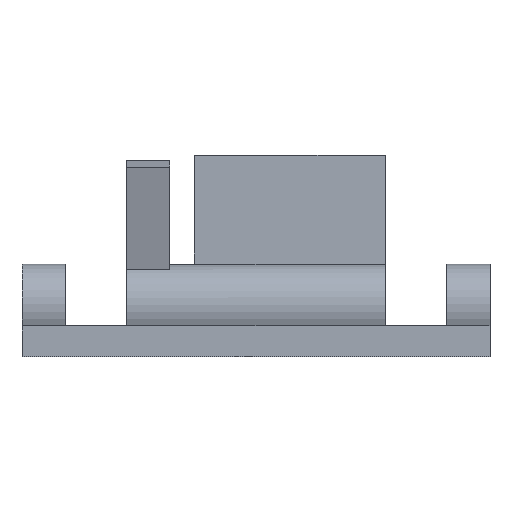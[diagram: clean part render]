
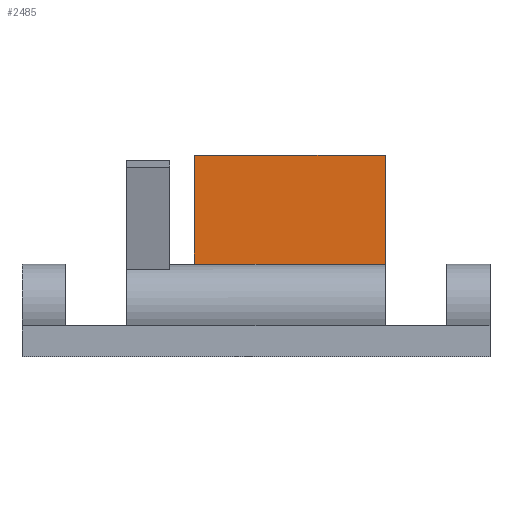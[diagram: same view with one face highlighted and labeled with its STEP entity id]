
A CAD part, front view. The second image highlights one B-rep face of the part: STEP entity #2485.
In plain terms, the highlighted planar face has unit normal (0, -1, 0).
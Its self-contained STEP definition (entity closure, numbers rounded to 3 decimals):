
#356 = PLANE('',#357);
#357 = AXIS2_PLACEMENT_3D('',#358,#359,#360);
#358 = CARTESIAN_POINT('',(21.,50.,259.));
#359 = DIRECTION('',(1.,0.,0.));
#360 = DIRECTION('',(-0.,0.,1.));
#384 = CYLINDRICAL_SURFACE('',#385,7.);
#385 = AXIS2_PLACEMENT_3D('',#386,#387,#388);
#386 = CARTESIAN_POINT('',(-21.,50.,259.));
#387 = DIRECTION('',(-1.,-0.,-0.));
#388 = DIRECTION('',(0.,-1.,0.));
#1368 = VERTEX_POINT('',#1369);
#1369 = CARTESIAN_POINT('',(21.,56.,262.606));
#1506 = VERTEX_POINT('',#1507);
#1507 = CARTESIAN_POINT('',(21.,56.,283.7));
#1521 = PLANE('',#1522);
#1522 = AXIS2_PLACEMENT_3D('',#1523,#1524,#1525);
#1523 = CARTESIAN_POINT('',(-10.,56.,283.7));
#1524 = DIRECTION('',(0.,0.,1.));
#1525 = DIRECTION('',(1.,0.,0.));
#1533 = EDGE_CURVE('',#1368,#1506,#1534,.T.);
#1534 = SURFACE_CURVE('',#1535,(#1539,#1546),.PCURVE_S1.);
#1535 = LINE('',#1536,#1537);
#1536 = CARTESIAN_POINT('',(21.,56.,257.));
#1537 = VECTOR('',#1538,1.);
#1538 = DIRECTION('',(0.,0.,1.));
#1539 = PCURVE('',#356,#1540);
#1540 = DEFINITIONAL_REPRESENTATION('',(#1541),#1545);
#1541 = LINE('',#1542,#1543);
#1542 = CARTESIAN_POINT('',(-2.,-6.));
#1543 = VECTOR('',#1544,1.);
#1544 = DIRECTION('',(1.,0.));
#1545 = ( GEOMETRIC_REPRESENTATION_CONTEXT(2) 
PARAMETRIC_REPRESENTATION_CONTEXT() REPRESENTATION_CONTEXT('2D SPACE',''
  ) );
#1546 = PCURVE('',#1547,#1552);
#1547 = PLANE('',#1548);
#1548 = AXIS2_PLACEMENT_3D('',#1549,#1550,#1551);
#1549 = CARTESIAN_POINT('',(-10.,56.,257.));
#1550 = DIRECTION('',(0.,1.,0.));
#1551 = DIRECTION('',(0.,0.,1.));
#1552 = DEFINITIONAL_REPRESENTATION('',(#1553),#1557);
#1553 = LINE('',#1554,#1555);
#1554 = CARTESIAN_POINT('',(0.,31.));
#1555 = VECTOR('',#1556,1.);
#1556 = DIRECTION('',(1.,0.));
#1557 = ( GEOMETRIC_REPRESENTATION_CONTEXT(2) 
PARAMETRIC_REPRESENTATION_CONTEXT() REPRESENTATION_CONTEXT('2D SPACE',''
  ) );
#1722 = VERTEX_POINT('',#1723);
#1723 = CARTESIAN_POINT('',(-10.,56.,262.606));
#1738 = PLANE('',#1739);
#1739 = AXIS2_PLACEMENT_3D('',#1740,#1741,#1742);
#1740 = CARTESIAN_POINT('',(-10.,56.,257.));
#1741 = DIRECTION('',(1.,0.,0.));
#1742 = DIRECTION('',(0.,0.,1.));
#1754 = EDGE_CURVE('',#1368,#1722,#1755,.T.);
#1755 = SURFACE_CURVE('',#1756,(#1760,#1766),.PCURVE_S1.);
#1756 = LINE('',#1757,#1758);
#1757 = CARTESIAN_POINT('',(-21.,56.,262.606));
#1758 = VECTOR('',#1759,1.);
#1759 = DIRECTION('',(-1.,-0.,-0.));
#1760 = PCURVE('',#384,#1761);
#1761 = DEFINITIONAL_REPRESENTATION('',(#1762),#1765);
#1762 = B_SPLINE_CURVE_WITH_KNOTS('',1,(#1763,#1764),.UNSPECIFIED.,.F.,
  .F.,(2,2),(-42.,-7.9),.PIECEWISE_BEZIER_KNOTS.);
#1763 = CARTESIAN_POINT('',(-3.683,-42.));
#1764 = CARTESIAN_POINT('',(-3.683,-7.9));
#1765 = ( GEOMETRIC_REPRESENTATION_CONTEXT(2) 
PARAMETRIC_REPRESENTATION_CONTEXT() REPRESENTATION_CONTEXT('2D SPACE',''
  ) );
#1766 = PCURVE('',#1547,#1767);
#1767 = DEFINITIONAL_REPRESENTATION('',(#1768),#1771);
#1768 = B_SPLINE_CURVE_WITH_KNOTS('',1,(#1769,#1770),.UNSPECIFIED.,.F.,
  .F.,(2,2),(-42.,-7.9),.PIECEWISE_BEZIER_KNOTS.);
#1769 = CARTESIAN_POINT('',(5.606,31.));
#1770 = CARTESIAN_POINT('',(5.606,-3.1));
#1771 = ( GEOMETRIC_REPRESENTATION_CONTEXT(2) 
PARAMETRIC_REPRESENTATION_CONTEXT() REPRESENTATION_CONTEXT('2D SPACE',''
  ) );
#2485 = ADVANCED_FACE('',(#2486),#1547,.F.);
#2486 = FACE_BOUND('',#2487,.F.);
#2487 = EDGE_LOOP('',(#2488,#2489,#2490,#2513));
#2488 = ORIENTED_EDGE('',*,*,#1533,.F.);
#2489 = ORIENTED_EDGE('',*,*,#1754,.T.);
#2490 = ORIENTED_EDGE('',*,*,#2491,.T.);
#2491 = EDGE_CURVE('',#1722,#2492,#2494,.T.);
#2492 = VERTEX_POINT('',#2493);
#2493 = CARTESIAN_POINT('',(-10.,56.,283.7));
#2494 = SURFACE_CURVE('',#2495,(#2499,#2506),.PCURVE_S1.);
#2495 = LINE('',#2496,#2497);
#2496 = CARTESIAN_POINT('',(-10.,56.,257.));
#2497 = VECTOR('',#2498,1.);
#2498 = DIRECTION('',(0.,0.,1.));
#2499 = PCURVE('',#1547,#2500);
#2500 = DEFINITIONAL_REPRESENTATION('',(#2501),#2505);
#2501 = LINE('',#2502,#2503);
#2502 = CARTESIAN_POINT('',(0.,0.));
#2503 = VECTOR('',#2504,1.);
#2504 = DIRECTION('',(1.,0.));
#2505 = ( GEOMETRIC_REPRESENTATION_CONTEXT(2) 
PARAMETRIC_REPRESENTATION_CONTEXT() REPRESENTATION_CONTEXT('2D SPACE',''
  ) );
#2506 = PCURVE('',#1738,#2507);
#2507 = DEFINITIONAL_REPRESENTATION('',(#2508),#2512);
#2508 = LINE('',#2509,#2510);
#2509 = CARTESIAN_POINT('',(0.,0.));
#2510 = VECTOR('',#2511,1.);
#2511 = DIRECTION('',(1.,0.));
#2512 = ( GEOMETRIC_REPRESENTATION_CONTEXT(2) 
PARAMETRIC_REPRESENTATION_CONTEXT() REPRESENTATION_CONTEXT('2D SPACE',''
  ) );
#2513 = ORIENTED_EDGE('',*,*,#2514,.T.);
#2514 = EDGE_CURVE('',#2492,#1506,#2515,.T.);
#2515 = SURFACE_CURVE('',#2516,(#2520,#2527),.PCURVE_S1.);
#2516 = LINE('',#2517,#2518);
#2517 = CARTESIAN_POINT('',(-10.,56.,283.7));
#2518 = VECTOR('',#2519,1.);
#2519 = DIRECTION('',(1.,0.,0.));
#2520 = PCURVE('',#1547,#2521);
#2521 = DEFINITIONAL_REPRESENTATION('',(#2522),#2526);
#2522 = LINE('',#2523,#2524);
#2523 = CARTESIAN_POINT('',(26.7,0.));
#2524 = VECTOR('',#2525,1.);
#2525 = DIRECTION('',(0.,1.));
#2526 = ( GEOMETRIC_REPRESENTATION_CONTEXT(2) 
PARAMETRIC_REPRESENTATION_CONTEXT() REPRESENTATION_CONTEXT('2D SPACE',''
  ) );
#2527 = PCURVE('',#1521,#2528);
#2528 = DEFINITIONAL_REPRESENTATION('',(#2529),#2533);
#2529 = LINE('',#2530,#2531);
#2530 = CARTESIAN_POINT('',(0.,0.));
#2531 = VECTOR('',#2532,1.);
#2532 = DIRECTION('',(1.,0.));
#2533 = ( GEOMETRIC_REPRESENTATION_CONTEXT(2) 
PARAMETRIC_REPRESENTATION_CONTEXT() REPRESENTATION_CONTEXT('2D SPACE',''
  ) );
